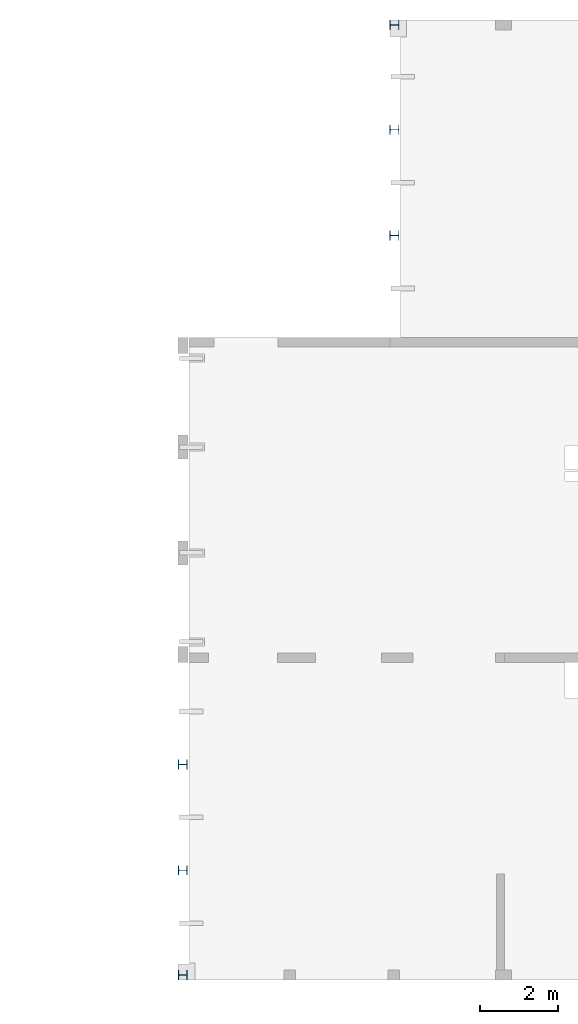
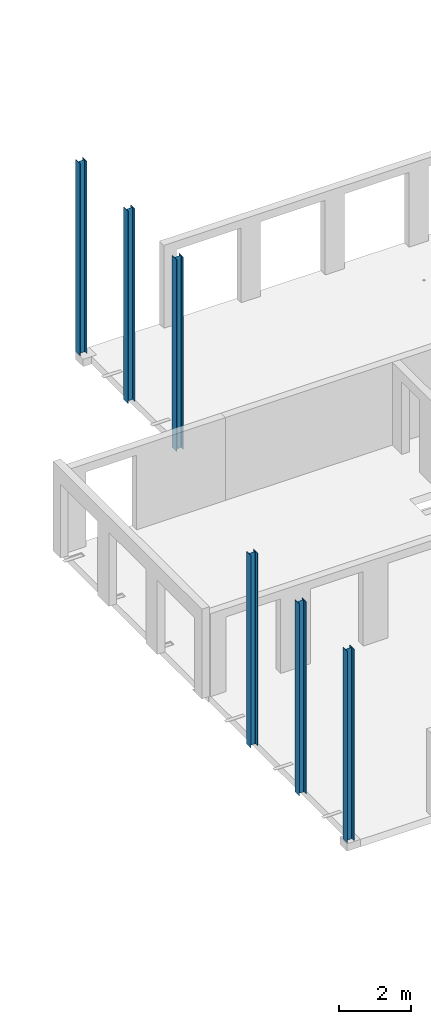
# One storey, part 3 of 10: 6 columns.
"""IFC2X3 building model written with IfcOpenShell, lengths in millimetres."""

from ifc_helpers import new_model, entity, si_unit, converted_unit, derived_unit, direction, frame, frame_2d, origin, place, context, subcontext, project, spatial, polyline, circle_curve, parameter, trimmed, segment, composite_curve, outline, extrude, source, transform, mapped, material, type_object, type_shapes, element, save


model = new_model("IFC2X3")

# Units and contexts
model_context = context("Model", 3, precision=0.01, world=origin(), true_north=direction((6.12303176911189e-17, 1.0)))
body_context = subcontext(model_context, "Body", "Model", "MODEL_VIEW")
ifc_project = project(units=[si_unit("LENGTHUNIT", "METRE", prefix="MILLI"), si_unit("AREAUNIT", "SQUARE_METRE"), si_unit("VOLUMEUNIT", "CUBIC_METRE"), converted_unit("PLANEANGLEUNIT", "DEGREE", entity("IfcRatioMeasure", 0.0174532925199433), si_unit("PLANEANGLEUNIT", "RADIAN"), dimensions=[0, 0, 0, 0, 0, 0, 0]), si_unit("MASSUNIT", "GRAM", prefix="KILO"), derived_unit("MASSDENSITYUNIT", [(si_unit("MASSUNIT", "GRAM", prefix="KILO"), 1), (si_unit("LENGTHUNIT", "METRE"), -3)]), si_unit("TIMEUNIT", "SECOND"), si_unit("FREQUENCYUNIT", "HERTZ"), si_unit("THERMODYNAMICTEMPERATUREUNIT", "DEGREE_CELSIUS"), derived_unit("THERMALTRANSMITTANCEUNIT", [(si_unit("MASSUNIT", "GRAM", prefix="KILO"), 1), (si_unit("THERMODYNAMICTEMPERATUREUNIT", "KELVIN"), -1), (si_unit("TIMEUNIT", "SECOND"), -3)]), derived_unit("VOLUMETRICFLOWRATEUNIT", [(si_unit("LENGTHUNIT", "METRE"), 3), (si_unit("TIMEUNIT", "SECOND"), -1)]), si_unit("ELECTRICCURRENTUNIT", "AMPERE"), si_unit("ELECTRICVOLTAGEUNIT", "VOLT"), si_unit("POWERUNIT", "WATT"), si_unit("FORCEUNIT", "NEWTON", prefix="KILO"), si_unit("ILLUMINANCEUNIT", "LUX"), si_unit("LUMINOUSFLUXUNIT", "LUMEN"), si_unit("LUMINOUSINTENSITYUNIT", "CANDELA"), derived_unit("USERDEFINED", [(si_unit("MASSUNIT", "GRAM", prefix="KILO"), -1), (si_unit("LENGTHUNIT", "METRE"), -2), (si_unit("TIMEUNIT", "SECOND"), 3), (si_unit("LUMINOUSFLUXUNIT", "LUMEN"), 1)]), derived_unit("LINEARVELOCITYUNIT", [(si_unit("LENGTHUNIT", "METRE"), 1), (si_unit("TIMEUNIT", "SECOND"), -1)]), si_unit("PRESSUREUNIT", "PASCAL"), derived_unit("USERDEFINED", [(si_unit("LENGTHUNIT", "METRE"), -2), (si_unit("MASSUNIT", "GRAM", prefix="KILO"), 1), (si_unit("TIMEUNIT", "SECOND"), -2)])], contexts=[model_context])

# Site, building, storey
site_placement = place(None, origin())
site = spatial("IfcSite", under=ifc_project, at=site_placement, Name="Default", CompositionType="ELEMENT")
building_placement = place(site_placement, origin())
building = spatial("IfcBuilding", under=site, at=building_placement, Name="niet gebruiken", CompositionType="ELEMENT")
storey_placement = place(building_placement, frame((0.0, 0.0, 63090.0)))
storey = spatial("IfcBuildingStorey", under=building, at=storey_placement, Name="21 eenentwintigste verdieping", CompositionType="ELEMENT", Elevation=63090.0)

# Columns
ifc_material = material(Name="NLRS_h2_staal")
column_type_1 = type_object("IfcColumnType", Name="kolom HEA 240", PredefinedType="COLUMN", material=ifc_material)
shared_shape_1 = source(origin(), body_context, "Body", "SweptSolid", [
    extrude(outline(composite_curve([segment(polyline([(103.0, -120.0), (115.0, -120.0)]), True, "CONTINUOUS"), segment(polyline([(115.0, -120.0), (115.0, 120.0)]), True, "CONTINUOUS"), segment(polyline([(115.0, 120.0), (103.0, 120.0)]), True, "CONTINUOUS"), segment(polyline([(103.0, 120.0), (103.0, 24.7499999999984)]), True, "CONTINUOUS"), segment(trimmed(circle_curve(frame_2d((82.0, 24.7499999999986), x_axis=(1.0, 0.0)), 21.0), [parameter(270.0)], [parameter(0.0)], True, "PARAMETER"), False, "CONTINUOUS"), segment(polyline([(82.0, 3.74999999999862), (-82.0, 3.74999999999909)]), True, "CONTINUOUS"), segment(trimmed(circle_curve(frame_2d((-82.0, 24.7499999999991), x_axis=(0.0, -1.0)), 21.0), [parameter(270.0)], [parameter(0.0)], True, "PARAMETER"), False, "CONTINUOUS"), segment(polyline([(-103.0, 24.7499999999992), (-103.0, 120.0)]), True, "CONTINUOUS"), segment(polyline([(-103.0, 120.0), (-115.0, 120.0)]), True, "CONTINUOUS"), segment(polyline([(-115.0, 120.0), (-115.0, -120.0)]), True, "CONTINUOUS"), segment(polyline([(-115.0, -120.0), (-103.0, -120.0)]), True, "CONTINUOUS"), segment(polyline([(-103.0, -120.0), (-103.0, -24.7500000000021)]), True, "CONTINUOUS"), segment(trimmed(circle_curve(frame_2d((-82.0, -24.7500000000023), x_axis=(-1.0, 0.0)), 21.0), [parameter(270.0)], [parameter(0.0)], True, "PARAMETER"), False, "CONTINUOUS"), segment(polyline([(-82.0, -3.75000000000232), (82.0, -3.75000000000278)]), True, "CONTINUOUS"), segment(trimmed(circle_curve(frame_2d((82.0, -24.7500000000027), x_axis=(0.0, 1.0)), 21.0), [parameter(270.0)], [parameter(0.0)], True, "PARAMETER"), False, "CONTINUOUS"), segment(polyline([(103.0, -24.7500000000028), (103.0, -120.0)]), True, "CONTINUOUS")], self_intersect=False)), frame((0.0, 0.0, 63000.0), z_axis=(0.0, 0.0, 1.0), x_axis=(0.0, -1.0, 0.0)), (0.0, 0.0, 1.0), 6539.99999999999),
])
type_shapes(column_type_1, [shared_shape_1])
for number, where, z_axis, x_axis, name in (
    (1, (81020.0, 53131.0, -63090.0), (0.0, 0.0, 1.0), (0.0, -1.0, 0.0), "NLRS_28.11_SCO_TLB_stalen kolom HEA_gen:kolom HEA 240"),
    (2, (81020.0, 50456.0, -63090.0), (0.0, 0.0, 1.0), (0.0, -1.0, 0.0), "NLRS_28.11_SCO_TLB_stalen kolom HEA_gen:kolom HEA 240"),
    (3, (81020.0, 47756.0, -63090.0), (0.0, 0.0, 1.0), (0.0, -1.0, 0.0), "NLRS_28.11_SCO_TLB_stalen kolom HEA_gen:kolom HEA 240"),
    (4, (75620.0, 34256.0, -63090.0), (0.0, 0.0, 1.0), (0.0, -1.0, 0.0), "NLRS_28.11_SCO_TLB_stalen kolom HEA_gen:kolom HEA 240"),
    (5, (75620.0, 31556.0, -63090.0), (0.0, 0.0, 1.0), (0.0, -1.0, 0.0), "NLRS_28.11_SCO_TLB_stalen kolom HEA_gen:kolom HEA 240"),
):
    element("IfcColumn", number, at=place(storey_placement, frame(where, z_axis=z_axis, x_axis=x_axis)), inside=storey, type_object=column_type_1, material=ifc_material, Name=name, ObjectType="kolom HEA 240", context=body_context, shape_type="MappedRepresentation", body=[
        mapped(shared_shape_1, transform((0.0, 0.0, 0.0), scale=1.0)),
    ])
column_type_2 = type_object("IfcColumnType", Name="kolom HEA 240", PredefinedType="COLUMN", material=ifc_material)
shared_shape_2 = source(origin(), body_context, "Body", "SweptSolid", [
    extrude(outline(composite_curve([segment(polyline([(103.0, -120.0), (115.0, -120.0)]), True, "CONTINUOUS"), segment(polyline([(115.0, -120.0), (115.0, 120.0)]), True, "CONTINUOUS"), segment(polyline([(115.0, 120.0), (103.0, 120.0)]), True, "CONTINUOUS"), segment(polyline([(103.0, 120.0), (103.0, 24.7499999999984)]), True, "CONTINUOUS"), segment(trimmed(circle_curve(frame_2d((82.0, 24.7499999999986), x_axis=(1.0, 0.0)), 21.0), [parameter(270.0)], [parameter(0.0)], True, "PARAMETER"), False, "CONTINUOUS"), segment(polyline([(82.0, 3.74999999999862), (-82.0, 3.74999999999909)]), True, "CONTINUOUS"), segment(trimmed(circle_curve(frame_2d((-82.0, 24.7499999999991), x_axis=(0.0, -1.0)), 21.0), [parameter(270.0)], [parameter(0.0)], True, "PARAMETER"), False, "CONTINUOUS"), segment(polyline([(-103.0, 24.7499999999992), (-103.0, 120.0)]), True, "CONTINUOUS"), segment(polyline([(-103.0, 120.0), (-115.0, 120.0)]), True, "CONTINUOUS"), segment(polyline([(-115.0, 120.0), (-115.0, -120.0)]), True, "CONTINUOUS"), segment(polyline([(-115.0, -120.0), (-103.0, -120.0)]), True, "CONTINUOUS"), segment(polyline([(-103.0, -120.0), (-103.0, -24.7500000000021)]), True, "CONTINUOUS"), segment(trimmed(circle_curve(frame_2d((-82.0, -24.7500000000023), x_axis=(-1.0, 0.0)), 21.0), [parameter(270.0)], [parameter(0.0)], True, "PARAMETER"), False, "CONTINUOUS"), segment(polyline([(-82.0, -3.75000000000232), (82.0, -3.75000000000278)]), True, "CONTINUOUS"), segment(trimmed(circle_curve(frame_2d((82.0, -24.7500000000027), x_axis=(0.0, 1.0)), 21.0), [parameter(270.0)], [parameter(0.0)], True, "PARAMETER"), False, "CONTINUOUS"), segment(polyline([(103.0, -24.7500000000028), (103.0, -120.0)]), True, "CONTINUOUS")], self_intersect=False)), frame((0.0, 0.0, 63030.0), z_axis=(0.0, 0.0, 1.0), x_axis=(0.0, -1.0, 0.0)), (0.0, 0.0, 1.0), 6510.0),
])
type_shapes(column_type_2, [shared_shape_2])
column_placement = place(storey_placement, frame((75620.0, 28881.0, -63090.0), z_axis=(0.0, 0.0, 1.0), x_axis=(0.0, -1.0, 0.0)))
element("IfcColumn", 6, at=column_placement, inside=storey, type_object=column_type_2, material=ifc_material, Name="NLRS_28.11_SCO_TLB_stalen kolom HEA_gen:kolom HEA 240", ObjectType="kolom HEA 240", context=body_context, shape_type="MappedRepresentation", body=[
    mapped(shared_shape_2, transform((0.0, 0.0, 0.0), scale=1.0)),
])

save(model, "model.ifc")
